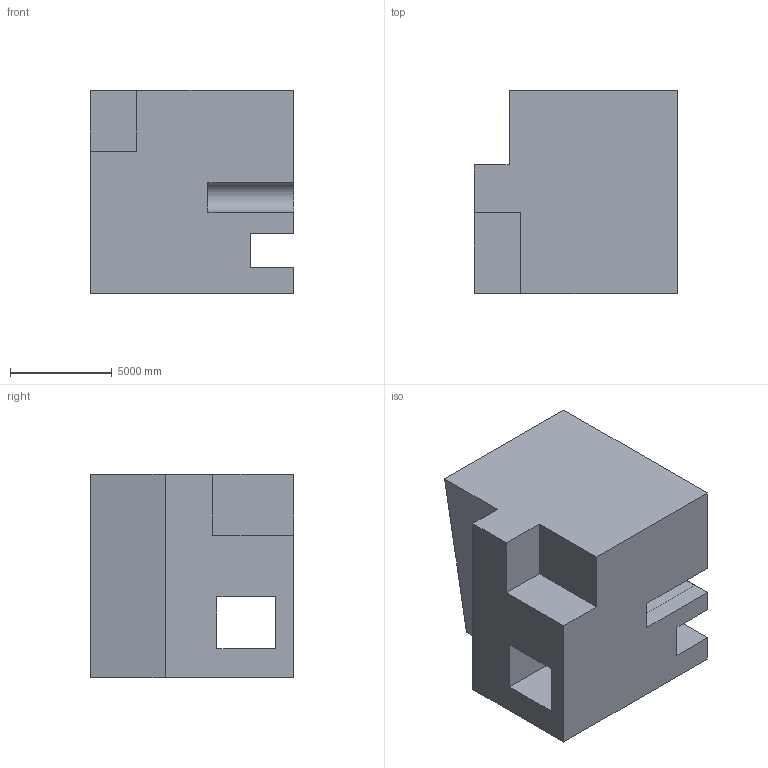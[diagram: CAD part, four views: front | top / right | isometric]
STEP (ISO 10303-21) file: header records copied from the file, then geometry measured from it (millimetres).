
FILE_DESCRIPTION (( 'STEP AP203' ), '1' );
FILE_NAME ('1469.STEP', '2022-08-18T14:40:00', ( 'user' ), ( '' ), 'SwSTEP 2.0', 'SolidWorks 2021', '' );
FILE_SCHEMA (( 'CONFIG_CONTROL_DESIGN' ));
Length unit declared in the file: centimetre
Products named in the file (1): 1469
Bounding box: 10000 x 10000 x 10000 mm (x, y, z)
Volume: 763682940205.5 mm3; surface area: 716336501.3 mm2
Topology: 1 solids, 1 shells, 24 faces, 69 edges, 46 vertices
Faces by surface type: plane 23, cylinder 1
Entity records: 856 total; most frequent: CARTESIAN_POINT 140, ORIENTED_EDGE 138, DIRECTION 121, EDGE_CURVE 69, VECTOR 67, LINE 67, VERTEX_POINT 46, AXIS2_PLACEMENT_3D 27
